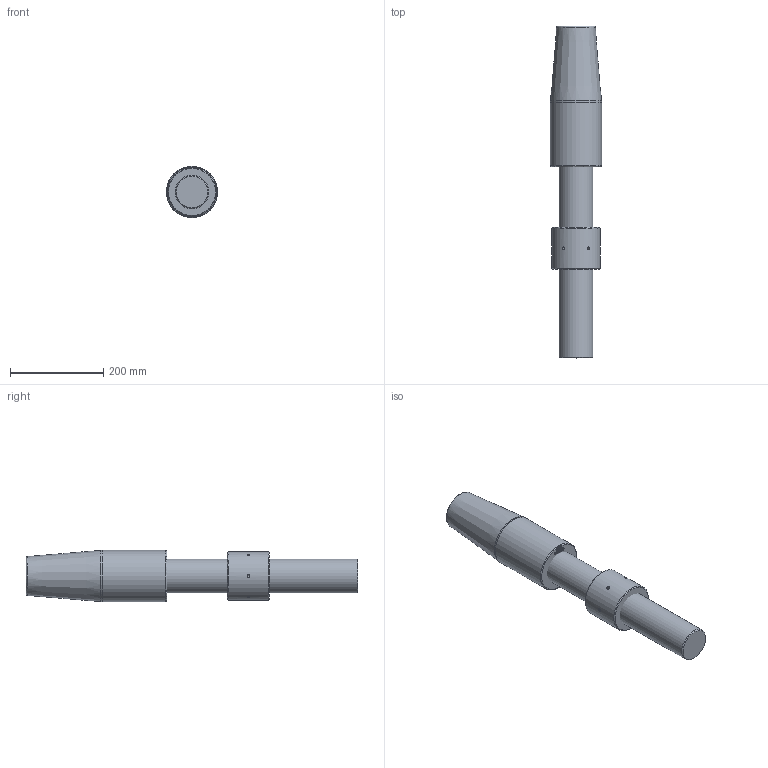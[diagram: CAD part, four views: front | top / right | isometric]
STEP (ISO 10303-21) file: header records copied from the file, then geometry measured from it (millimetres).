
FILE_DESCRIPTION(/* description */ (''),/* implementation_level */ '2;1');
FILE_NAME(/* name */ 'C:\Users\ranca\Desktop\CYM\ARRANGEMENT\CYM036 52 061 0.stp',/* time_stamp */ '2021-04-22T18:32:45+02:00',/* author */ ('ranca'),/* organization */ (''),/* preprocessor_version */ 'ST-DEVELOPER v16.13',/* originating_system */ 'Autodesk Inventor 2018',/* authorisation */ '');
FILE_SCHEMA (('AUTOMOTIVE_DESIGN { 1 0 10303 214 3 1 1 }'));
Length unit declared in the file: millimetre
Products named in the file (4): CYM036-52-061-0; CYM012-52-061-0_ROD; CYC036 52 065 0_CYL SOK_RH; CYM036-41-051-0
Assembly tree (3 placements, depth 2):
  CYM036-52-061-0
    CYM012-52-061-0_ROD
    CYC036 52 065 0_CYL SOK_RH
    CYM036-41-051-0
Bounding box: 110 x 712 x 110 mm (x, y, z)
Volume: 5334052.3 mm3; surface area: 279693.8 mm2
Topology: 3 solids, 3 shells, 565 faces, 1534 edges, 1020 vertices
Faces by surface type: bspline 326, plane 217, cone 11, cylinder 9, torus 2
Full cylindrical faces by diameter (mm): 6 x6, 72 x1, 105 x1, 110 x1
Entity records: 19555 total; most frequent: CARTESIAN_POINT 7554, ORIENTED_EDGE 3010, EDGE_CURVE 1505, DIRECTION 1356, VERTEX_POINT 1014, LINE 820, VECTOR 820, B_SPLINE_CURVE_WITH_KNOTS 662
